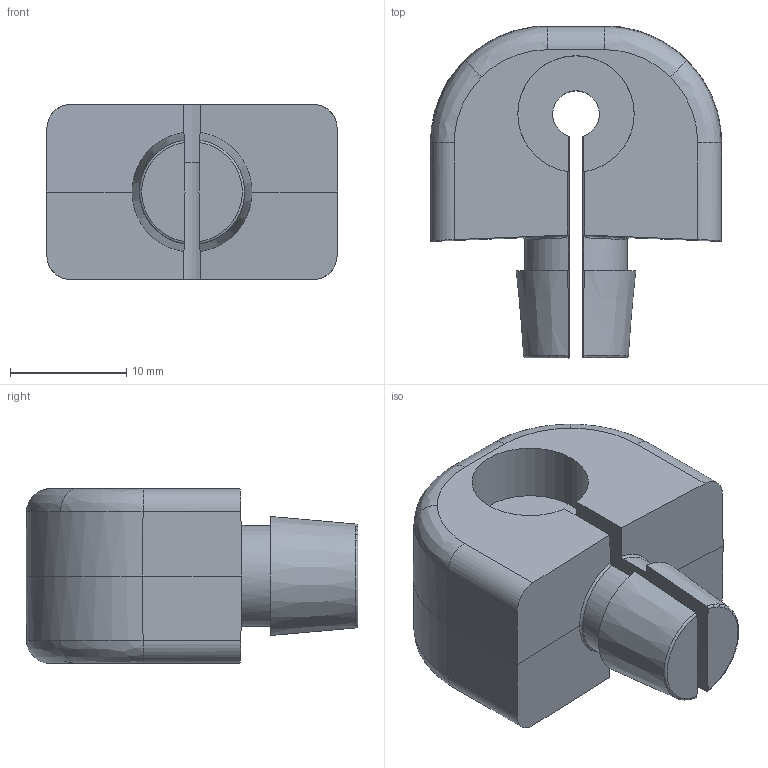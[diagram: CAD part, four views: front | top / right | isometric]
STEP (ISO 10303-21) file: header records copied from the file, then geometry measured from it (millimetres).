
FILE_DESCRIPTION (( 'STEP AP203' ), '1' );
FILE_NAME ('013.100.012.STEP', '2020-10-29T10:05:18', ( '' ), ( '' ), 'SwSTEP 2.0', 'SolidWorks 2018', '' );
FILE_SCHEMA (( 'CONFIG_CONTROL_DESIGN' ));
Length unit declared in the file: millimetre
Products named in the file (1): 013.100.012
Bounding box: 25 x 28.5 x 15 mm (x, y, z)
Volume: 6007.2 mm3; surface area: 2807.3 mm2
Topology: 1 solids, 1 shells, 55 faces, 143 edges, 90 vertices
Faces by surface type: plane 21, cylinder 18, bspline 12, cone 2, torus 2
Entity records: 1976 total; most frequent: CARTESIAN_POINT 711, ORIENTED_EDGE 286, DIRECTION 213, EDGE_CURVE 143, VERTEX_POINT 90, AXIS2_PLACEMENT_3D 76, LINE 61, VECTOR 61
